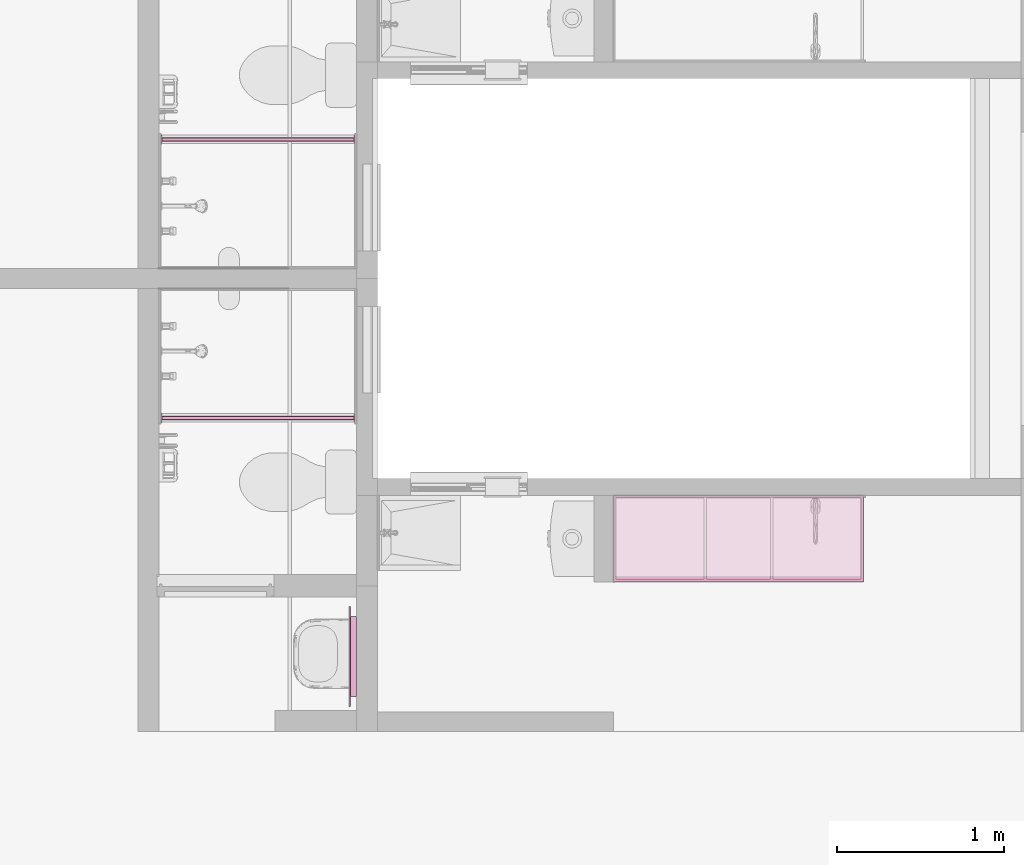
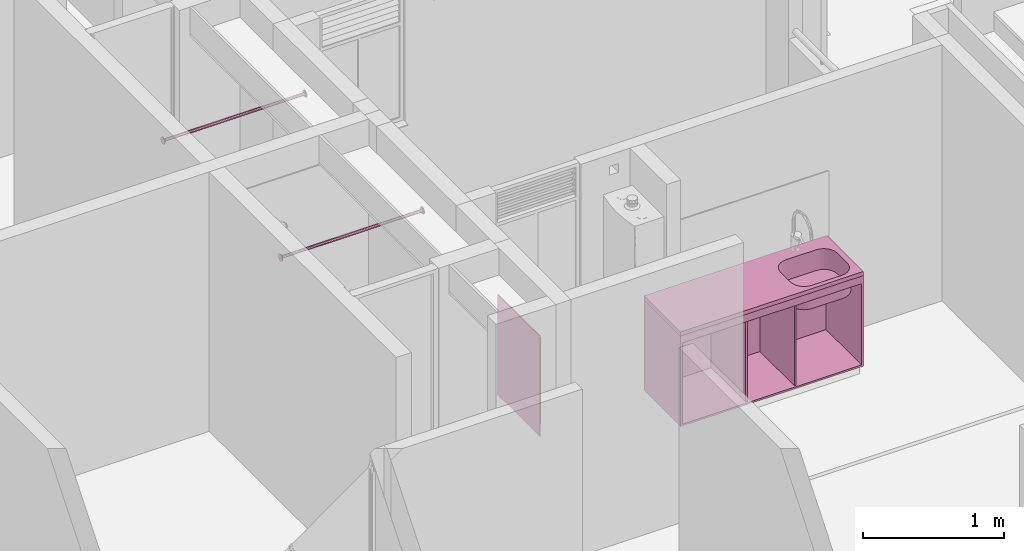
# One storey, part 44 of 51: 5 furniture elements.
"""IFC4 building model written with IfcOpenShell, lengths in metres."""

import ifcopenshell
import ifcopenshell.guid

model = None  # the IFC model being written
_history = None  # IfcOwnerHistory: only IFC2X3 demands one
_inside = {}  # id of a spatial element -> (the spatial element, [elements in it])
_under = {}  # id of a project, library or spatial element -> (it, [spatial elements below it])
_declared = {}  # id of a project -> (the project, [libraries it declares])
_typed = {}  # id of a type object -> (the type object, [elements of that type])
_made_of = {}  # id of a material, layer set ... -> (it, [elements and type objects made of it])


def new_model(schema):
    """Start an empty IFC model of exactly this schema.

    Asked for "IFC4X3", IfcOpenShell would pick the latest addendum, in which some entities
    have other attributes; the version numbers below select the first issue.
    IFC2X3 requires an IfcOwnerHistory on every rooted entity: one is made here for all.
    """
    global model, _history
    if schema == "IFC4X3":
        model = ifcopenshell.file(schema_version=(4, 3, 0, 0))
    else:
        model = ifcopenshell.file(schema=schema)
    _inside.clear()
    _under.clear()
    _declared.clear()
    _typed.clear()
    _made_of.clear()
    _history = None
    if model.schema == "IFC2X3":
        org = make("IfcOrganization", Name="unknown")
        user = make(
            "IfcPersonAndOrganization",
            ThePerson=make("IfcPerson", FamilyName="unknown"),
            TheOrganization=org,
        )
        app = make(
            "IfcApplication",
            ApplicationDeveloper=org,
            Version="unknown",
            ApplicationFullName="unknown",
            ApplicationIdentifier="unknown",
        )
        _history = make(
            "IfcOwnerHistory",
            OwningUser=user,
            OwningApplication=app,
            ChangeAction="ADDED",
            CreationDate=0,
        )
    return model


def make(cls, **values):
    """One entity of the class cls with the attributes given. An attribute that is None is left unset."""
    return model.create_entity(
        cls, **{name: value for name, value in values.items() if value is not None}
    )


def entity(cls, *values):
    """Any entity or typed value of the class cls, its attributes in the order of the schema. None: left unset."""
    e = model.create_entity(cls)
    for i, value in enumerate(values):
        if value is not None:
            e[i] = value
    return e


def rooted(cls, **values):
    """An entity with a GlobalId (a new one), such as an element, a storey or a relation."""
    return make(cls, GlobalId=ifcopenshell.guid.new(), OwnerHistory=_history, **values)


def si_unit(unit_type, name, prefix=None):
    """IfcSIUnit, for example si_unit("LENGTHUNIT", "METRE", prefix="MILLI")."""
    return make("IfcSIUnit", UnitType=unit_type, Prefix=prefix, Name=name)


def converted_unit(unit_type, name, factor, base, dimensions=None, offset=None):
    """IfcConversionBasedUnit, such as the inch: factor (a typed value) times the base unit."""
    return make(
        "IfcConversionBasedUnit"
        if offset is None
        else "IfcConversionBasedUnitWithOffset",
        ConversionOffset=offset,
        Dimensions=None
        if dimensions is None
        else entity("IfcDimensionalExponents", *dimensions),
        UnitType=unit_type,
        Name=name,
        ConversionFactor=make(
            "IfcMeasureWithUnit", ValueComponent=factor, UnitComponent=base
        ),
    )


def derived_unit(unit_type, elements):
    """IfcDerivedUnit: a product of units, each with its exponent."""
    return make(
        "IfcDerivedUnit",
        Elements=[
            make("IfcDerivedUnitElement", Unit=unit, Exponent=power)
            for unit, power in elements
        ],
        UnitType=unit_type,
    )


def assignment(units):
    """IfcUnitAssignment: the units of a project."""
    return None if units is None else make("IfcUnitAssignment", Units=units)


def point(xyz):
    """IfcCartesianPoint."""
    return None if xyz is None else make("IfcCartesianPoint", Coordinates=xyz)


def direction(xyz):
    """IfcDirection."""
    return None if xyz is None else make("IfcDirection", DirectionRatios=xyz)


def frame(location, z_axis=None, x_axis=None):
    """IfcAxis2Placement3D, a coordinate frame: its origin and axes. An axis left out is left unset."""
    return make(
        "IfcAxis2Placement3D",
        Location=point(location),
        Axis=direction(z_axis),
        RefDirection=direction(x_axis),
    )


def origin():
    """The frame at (0, 0, 0) with its axes left unset."""
    return frame((0.0, 0.0, 0.0))


def place(relative_to, where):
    """IfcLocalPlacement: puts the frame where relative to a parent placement (None: the world)."""
    return make(
        "IfcLocalPlacement", PlacementRelTo=relative_to, RelativePlacement=where
    )


def context(
    kind, dimensions, precision=None, world=None, true_north=None, identifier=None
):
    """IfcGeometricRepresentationContext, for example the 3D "Model" context."""
    return make(
        "IfcGeometricRepresentationContext",
        ContextIdentifier=identifier,
        ContextType=kind,
        CoordinateSpaceDimension=dimensions,
        Precision=precision,
        WorldCoordinateSystem=world,
        TrueNorth=true_north,
    )


def subcontext(parent, identifier, kind, view, scale=None):
    """IfcGeometricRepresentationSubContext, for example "Body" below "Model"."""
    return make(
        "IfcGeometricRepresentationSubContext",
        ContextIdentifier=identifier,
        ContextType=kind,
        ParentContext=parent,
        TargetScale=scale,
        TargetView=view,
    )


def project(units=None, contexts=None):
    """IfcProject with its units and contexts."""
    return rooted(
        "IfcProject",
        Name="project",
        RepresentationContexts=contexts,
        UnitsInContext=assignment(units),
    )


def spatial(cls, under=None, at=None, **own):
    """A site, building, storey or space (cls), placed at a placement, below another one or the project."""
    s = rooted(cls, ObjectPlacement=at, **own)
    if under is not None:
        _under.setdefault(under.id(), (under, []))[1].append(s)
    return s


def point_list(points):
    """IfcCartesianPointList2D or 3D."""
    cls = (
        "IfcCartesianPointList2D" if len(points[0]) == 2 else "IfcCartesianPointList3D"
    )
    return make(cls, CoordList=points)


def arc(*indices):
    """IfcArcIndex: an arc through three numbered points of an indexed curve."""
    return model.create_entity("IfcArcIndex", indices)


def indexed_curve(points, segments=None, self_intersect=None):
    """IfcIndexedPolyCurve: lines and arcs through numbered points (the first is 1)."""
    return make(
        "IfcIndexedPolyCurve",
        Points=point_list(points),
        Segments=segments,
        SelfIntersect=self_intersect,
    )


def outline(outer, holes=None, kind="AREA"):
    """IfcArbitraryClosedProfileDef: a profile drawn as a closed curve; with holes, ...WithVoids."""
    if holes is None:
        return make("IfcArbitraryClosedProfileDef", ProfileType=kind, OuterCurve=outer)
    return make(
        "IfcArbitraryProfileDefWithVoids",
        ProfileType=kind,
        OuterCurve=outer,
        InnerCurves=holes,
    )


def extrude(swept, where, along, depth):
    """IfcExtrudedAreaSolid: the profile swept, set in the frame where, extruded along a direction by depth."""
    return make(
        "IfcExtrudedAreaSolid",
        SweptArea=swept,
        Position=where,
        ExtrudedDirection=direction(along),
        Depth=depth,
    )


def polygons(points, faces, closed=None, point_numbers=None):
    """IfcPolygonalFaceSet: a face is its outer loop, then its inner loops; points numbered from 1."""
    made = []
    for loops in faces:
        if len(loops) == 1:
            made.append(make("IfcIndexedPolygonalFace", CoordIndex=loops[0]))
        else:
            made.append(
                make(
                    "IfcIndexedPolygonalFaceWithVoids",
                    CoordIndex=loops[0],
                    InnerCoordIndices=loops[1:],
                )
            )
    return make(
        "IfcPolygonalFaceSet",
        Coordinates=point_list(points),
        Closed=closed,
        Faces=made,
        PnIndex=point_numbers,
    )


def shape(context_of_items, identifier, shape_type, items):
    """IfcShapeRepresentation: the items that make up one representation, for example the "Body"."""
    return make(
        "IfcShapeRepresentation",
        ContextOfItems=context_of_items,
        RepresentationIdentifier=identifier,
        RepresentationType=shape_type,
        Items=items,
    )


def source(mapping_origin, context_of_items, identifier, shape_type, items):
    """IfcRepresentationMap: a shape defined once, which mapped items show again and again."""
    return make(
        "IfcRepresentationMap",
        MappingOrigin=mapping_origin,
        MappedRepresentation=shape(context_of_items, identifier, shape_type, items),
    )


def transform(
    local_origin,
    x_axis=None,
    y_axis=None,
    z_axis=None,
    scale=None,
    scale2=None,
    scale3=None,
    uniform=True,
):
    """IfcCartesianTransformationOperator3D, or its non-uniform kind. x_axis, y_axis, z_axis: its Axis1, 2, 3."""
    if uniform:
        return make(
            "IfcCartesianTransformationOperator3D",
            Axis1=direction(x_axis),
            Axis2=direction(y_axis),
            LocalOrigin=point(local_origin),
            Scale=scale,
            Axis3=direction(z_axis),
        )
    return make(
        "IfcCartesianTransformationOperator3DnonUniform",
        Axis1=direction(x_axis),
        Axis2=direction(y_axis),
        LocalOrigin=point(local_origin),
        Scale=scale,
        Axis3=direction(z_axis),
        Scale2=scale2,
        Scale3=scale3,
    )


def mapped(mapping_source, mapping_target):
    """IfcMappedItem: shows the shape of a source again, moved by a transform."""
    return make(
        "IfcMappedItem", MappingSource=mapping_source, MappingTarget=mapping_target
    )


def material(Name=None, Category=None):
    """IfcMaterial."""
    return make("IfcMaterial", Name=Name, Category=Category)


def constituent(of_material, Name=None, Category=None, fraction=None):
    """IfcMaterialConstituent: one of the materials an element consists of."""
    return make(
        "IfcMaterialConstituent",
        Name=Name,
        Material=of_material,
        Fraction=fraction,
        Category=Category,
    )


def constituent_set(constituents=None, Name=None):
    """IfcMaterialConstituentSet."""
    return make(
        "IfcMaterialConstituentSet", Name=Name, MaterialConstituents=constituents
    )


def made_of(thing, what):
    """Note that an element or type object is made of a material, layer set ...; save() writes the relation."""
    if what is not None:
        _made_of.setdefault(what.id(), (what, []))[1].append(thing)
    return thing


def type_object(cls, material=None, **own):
    """A type object (cls), such as IfcWallType, which elements share."""
    return made_of(rooted(cls, **own), material)


def type_shapes(of_type, sources):
    """Give a type object the sources (RepresentationMaps) that its elements show as mapped items."""
    of_type.RepresentationMaps = sources


def element(
    cls,
    number,
    at=None,
    inside=None,
    cuts=None,
    type_object=None,
    material=None,
    context=None,
    identifier="Body",
    shape_type=None,
    held_by="IfcProductDefinitionShape",
    body=None,
    shapes=None,
    **own,
):
    """One element of the class cls, such as IfcWall. Its Tag is "e" and its number.

    at: its placement. inside: the storey or other place that contains it. cuts: it is an
    opening in that element (IfcRelVoidsElement). A single representation is given by context,
    identifier, shape_type and body (its items); several are given by shapes. held_by: the class
    of the entity that holds the representations. save() writes the other relations.
    """
    e = rooted(cls, Tag="e%d" % number, ObjectPlacement=at, **own)
    if body is not None:
        shapes = [shape(context, identifier, shape_type, body)]
    if shapes is not None:
        e.Representation = make(held_by, Representations=shapes)
    if inside is not None:
        _inside.setdefault(inside.id(), (inside, []))[1].append(e)
    if cuts is not None:
        rooted(
            "IfcRelVoidsElement", RelatingBuildingElement=cuts, RelatedOpeningElement=e
        )
    if type_object is not None:
        _typed.setdefault(type_object.id(), (type_object, []))[1].append(e)
    return made_of(e, material)


def aggregate(whole, parts):
    """IfcRelAggregates: a whole, such as a stair, and the parts it consists of."""
    return rooted("IfcRelAggregates", RelatingObject=whole, RelatedObjects=parts)


def save(model, path):
    """Write the relations noted so far, then the file.

    IfcRelAggregates (storeys below a building ...), IfcRelContainedInSpatialStructure (elements
    in a storey), IfcRelDefinesByType, IfcRelAssociatesMaterial and IfcRelDeclares: one each for
    every whole, place, type object, material and project.
    """
    for whole, parts in _under.values():
        aggregate(whole, parts)
    for where, things in _inside.values():
        rooted(
            "IfcRelContainedInSpatialStructure",
            RelatedElements=things,
            RelatingStructure=where,
        )
    for kind, things in _typed.values():
        rooted("IfcRelDefinesByType", RelatedObjects=things, RelatingType=kind)
    for what, things in _made_of.values():
        rooted("IfcRelAssociatesMaterial", RelatedObjects=things, RelatingMaterial=what)
    for by, libraries in _declared.values():
        rooted("IfcRelDeclares", RelatingContext=by, RelatedDefinitions=libraries)
    model.write(path)


model = new_model("IFC4")

# Units and contexts
model_context = context("Model", 3, precision=1e-05, world=origin(), true_north=direction((6.123031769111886e-17, 1.0)))
body_context = subcontext(model_context, "Body", "Model", "MODEL_VIEW")
ifc_project = project(units=[si_unit("LENGTHUNIT", "METRE"), si_unit("AREAUNIT", "SQUARE_METRE"), si_unit("VOLUMEUNIT", "CUBIC_METRE"), converted_unit("PLANEANGLEUNIT", "DEGREE", entity("IfcRatioMeasure", 0.017453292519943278), si_unit("PLANEANGLEUNIT", "RADIAN"), dimensions=[0, 0, 0, 0, 0, 0, 0]), si_unit("MASSUNIT", "GRAM", prefix="KILO"), derived_unit("MASSDENSITYUNIT", [(si_unit("MASSUNIT", "GRAM", prefix="KILO"), 1), (si_unit("LENGTHUNIT", "METRE"), -3)]), derived_unit("IONCONCENTRATIONUNIT", [(si_unit("MASSUNIT", "GRAM", prefix="KILO"), 1), (si_unit("LENGTHUNIT", "METRE"), -3)]), derived_unit("MOMENTOFINERTIAUNIT", [(si_unit("LENGTHUNIT", "METRE"), 4)]), si_unit("TIMEUNIT", "SECOND"), si_unit("FREQUENCYUNIT", "HERTZ"), si_unit("THERMODYNAMICTEMPERATUREUNIT", "DEGREE_CELSIUS"), derived_unit("THERMALTRANSMITTANCEUNIT", [(si_unit("MASSUNIT", "GRAM", prefix="KILO"), 1), (si_unit("THERMODYNAMICTEMPERATUREUNIT", "KELVIN"), -1), (si_unit("TIMEUNIT", "SECOND"), -3)]), derived_unit("THERMALCONDUCTANCEUNIT", [(si_unit("MASSUNIT", "GRAM", prefix="KILO"), 1), (si_unit("THERMODYNAMICTEMPERATUREUNIT", "KELVIN"), -1), (si_unit("TIMEUNIT", "SECOND"), -3), (si_unit("LENGTHUNIT", "METRE"), 1)]), derived_unit("VOLUMETRICFLOWRATEUNIT", [(si_unit("LENGTHUNIT", "METRE"), 3), (si_unit("TIMEUNIT", "SECOND"), -1)]), derived_unit("MASSFLOWRATEUNIT", [(si_unit("MASSUNIT", "GRAM", prefix="KILO"), 1), (si_unit("TIMEUNIT", "SECOND"), -1)]), derived_unit("ROTATIONALFREQUENCYUNIT", [(si_unit("TIMEUNIT", "SECOND"), -1)]), si_unit("ELECTRICCURRENTUNIT", "AMPERE"), si_unit("ELECTRICVOLTAGEUNIT", "VOLT"), si_unit("POWERUNIT", "WATT"), si_unit("FORCEUNIT", "NEWTON", prefix="KILO"), si_unit("ILLUMINANCEUNIT", "LUX"), si_unit("LUMINOUSFLUXUNIT", "LUMEN"), si_unit("LUMINOUSINTENSITYUNIT", "CANDELA"), derived_unit("USERDEFINED", [(si_unit("MASSUNIT", "GRAM", prefix="KILO"), -1), (si_unit("LENGTHUNIT", "METRE"), -2), (si_unit("TIMEUNIT", "SECOND"), 3), (si_unit("LUMINOUSFLUXUNIT", "LUMEN"), 1)]), derived_unit("USERDEFINED", [(si_unit("MASSUNIT", "GRAM", prefix="KILO"), 1), (si_unit("TIMEUNIT", "SECOND"), -3), (si_unit("LENGTHUNIT", "METRE"), 3), (si_unit("ELECTRICCURRENTUNIT", "AMPERE"), -2)]), derived_unit("SOUNDPOWERUNIT", [(si_unit("MASSUNIT", "GRAM", prefix="KILO"), 1), (si_unit("TIMEUNIT", "SECOND"), -3), (si_unit("LENGTHUNIT", "METRE"), 2)]), derived_unit("SOUNDPRESSUREUNIT", [(si_unit("MASSUNIT", "GRAM", prefix="KILO"), 1), (si_unit("LENGTHUNIT", "METRE"), -1), (si_unit("TIMEUNIT", "SECOND"), -2)]), derived_unit("LINEARVELOCITYUNIT", [(si_unit("LENGTHUNIT", "METRE"), 1), (si_unit("TIMEUNIT", "SECOND"), -1)]), si_unit("PRESSUREUNIT", "PASCAL"), derived_unit("USERDEFINED", [(si_unit("MASSUNIT", "GRAM", prefix="KILO"), 1), (si_unit("LENGTHUNIT", "METRE"), -2), (si_unit("TIMEUNIT", "SECOND"), -2)]), derived_unit("LINEARFORCEUNIT", [(si_unit("MASSUNIT", "GRAM", prefix="KILO"), 1), (si_unit("TIMEUNIT", "SECOND"), -2)]), derived_unit("PLANARFORCEUNIT", [(si_unit("MASSUNIT", "GRAM", prefix="KILO"), 1), (si_unit("LENGTHUNIT", "METRE"), -1), (si_unit("TIMEUNIT", "SECOND"), -2)]), derived_unit("SPECIFICHEATCAPACITYUNIT", [(si_unit("THERMODYNAMICTEMPERATUREUNIT", "KELVIN"), -1), (si_unit("LENGTHUNIT", "METRE"), 2), (si_unit("TIMEUNIT", "SECOND"), -2)]), derived_unit("HEATINGVALUEUNIT", [(si_unit("LENGTHUNIT", "METRE"), 2), (si_unit("TIMEUNIT", "SECOND"), -2)]), derived_unit("VAPORPERMEABILITYUNIT", [(si_unit("LENGTHUNIT", "METRE"), -1), (si_unit("TIMEUNIT", "SECOND"), 1)]), derived_unit("DYNAMICVISCOSITYUNIT", [(si_unit("MASSUNIT", "GRAM", prefix="KILO"), 1), (si_unit("TIMEUNIT", "SECOND"), -1), (si_unit("LENGTHUNIT", "METRE"), -1)]), derived_unit("THERMALEXPANSIONCOEFFICIENTUNIT", [(si_unit("THERMODYNAMICTEMPERATUREUNIT", "KELVIN"), -1)]), derived_unit("MODULUSOFELASTICITYUNIT", [(si_unit("MASSUNIT", "GRAM", prefix="KILO"), 1), (si_unit("LENGTHUNIT", "METRE"), -1), (si_unit("TIMEUNIT", "SECOND"), -2)]), derived_unit("ISOTHERMALMOISTURECAPACITYUNIT", [(si_unit("LENGTHUNIT", "METRE"), 3), (si_unit("MASSUNIT", "GRAM", prefix="KILO"), -1)]), derived_unit("MOISTUREDIFFUSIVITYUNIT", [(si_unit("TIMEUNIT", "SECOND"), -1), (si_unit("LENGTHUNIT", "METRE"), 2)])], contexts=[model_context])

# Site, building, storey
site_placement = place(None, origin())
site = spatial("IfcSite", under=ifc_project, at=site_placement, Name="Default", CompositionType="ELEMENT")
building_placement = place(site_placement, origin())
building = spatial("IfcBuilding", under=site, at=building_placement, CompositionType="ELEMENT")
storey_placement = place(building_placement, frame((0.0, 0.0, 2.350000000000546)))
storey = spatial("IfcBuildingStorey", under=building, at=storey_placement, Name="Nivel 2", CompositionType="ELEMENT", Elevation=2.350000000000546)

# Furniture
ifc_material_1 = material(Name="Aluminio", Category="Materials")
ifc_constituent_1 = constituent(ifc_material_1, Name="Aluminio", Category="Materials")
ifc_material_2 = material(Name="ESPEJO", Category="Materials")
ifc_constituent_2 = constituent(ifc_material_2, Name="ESPEJO", Category="Materials")
ifc_constituent_set_1 = constituent_set(constituents=[ifc_constituent_1, ifc_constituent_2])
ifc_constituent_3 = constituent(ifc_material_1, Name="Aluminio", Category="Materials")
ifc_constituent_4 = constituent(ifc_material_2, Name="ESPEJO", Category="Materials")
ifc_constituent_set_2 = constituent_set(constituents=[ifc_constituent_3, ifc_constituent_4])
furniture_type_1 = type_object("IfcFurnitureType", Name="E2050 - Espejo:E2050 - 0.60m x 0.87m - Espejo", AssemblyPlace="NOTDEFINED", PredefinedType="NOTDEFINED", material=ifc_constituent_set_2)
shared_shape_1 = source(origin(), body_context, "Body", "SweptSolid", [
    extrude(outline(indexed_curve([(-0.23999999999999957, -0.3749999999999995), (0.2399999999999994, -0.3749999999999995), (0.2399999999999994, 0.37499999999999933), (-0.23999999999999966, 0.3749999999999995), (-0.23999999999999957, -0.3749999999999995)], self_intersect=False), holes=[indexed_curve([(0.2149999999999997, -0.34999999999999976), (-0.21499999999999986, -0.34999999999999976), (-0.21499999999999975, 0.34999999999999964), (0.2149999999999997, 0.34999999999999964), (0.2149999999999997, -0.34999999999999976)], self_intersect=False)]), frame((0.12499999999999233, 0.062499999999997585, 1.485), z_axis=(0.0, 1.0, 0.0), x_axis=(1.0, 0.0, 0.0)), (0.0, 0.0, 1.0), 0.037500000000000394),
    extrude(outline(indexed_curve([(-0.00350000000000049, -0.30000000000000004), (0.00350000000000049, -0.30000000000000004), (0.00350000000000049, 0.30000000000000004), (-0.00350000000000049, 0.30000000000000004), (-0.00350000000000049, -0.30000000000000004)], self_intersect=False)), frame((0.1249999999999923, 0.10350000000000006, 1.05), z_axis=(0.0, 0.0, 1.0), x_axis=(0.0, 1.0, 0.0)), (0.0, 0.0, 1.0), 0.87),
])
type_shapes(furniture_type_1, [shared_shape_1])
furniture_1_placement = place(storey_placement, frame((4.024999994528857, -8.815000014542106, -0.020000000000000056), z_axis=(0.0, 0.0, 1.0), x_axis=(0.0, 1.0, 0.0)))
element("IfcFurniture", 1, at=furniture_1_placement, inside=storey, type_object=furniture_type_1, material=ifc_constituent_set_1, Name="E2050 - Espejo:E2050 - 0.60m x 0.87m - Espejo", ObjectType="E2050 - Espejo:E2050 - 0.60m x 0.87m - Espejo", PredefinedType="NOTDEFINED", context=body_context, shape_type="MappedRepresentation", body=[
    mapped(shared_shape_1, transform((0.0, 0.0, 0.0), scale=1.0)),
])

# Space
space_1_placement = place(storey_placement, origin())
space_1 = spatial("IfcSpace", under=storey, at=space_1_placement, Name="411", CompositionType="ELEMENT", PredefinedType="SPACE")

# Furniture
ifc_material_3 = material(Name="<Unnamed>")
furniture_type_2 = type_object("IfcFurnitureType", Name="Barra baño:E2050- Barra Baño- Acero inoxidable", AssemblyPlace="NOTDEFINED", PredefinedType="NOTDEFINED", material=ifc_material_3)
shared_shape_2 = source(origin(), body_context, "Body", "SweptSolid", [
    extrude(outline(indexed_curve([(-0.025, 0.0), (-9.341026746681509e-17, -0.025), (0.025, 2.707167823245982e-16), (-1.316959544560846e-16, 0.025)], segments=[arc(1, 2, 3), arc(3, 4, 1)], self_intersect=False)), frame((-1.1599989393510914, 0.0, 1.8000000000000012), z_axis=(1.0, 0.0, 0.0), x_axis=(0.0, 1.0, 0.0)), (0.0, 0.0, 1.0), 0.005000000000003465),
    extrude(outline(indexed_curve([(-0.03, 0.0), (-1.1209232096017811e-16, -0.029999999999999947), (0.03, 2.707167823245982e-16), (-1.3138979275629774e-16, 0.029999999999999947)], segments=[arc(1, 2, 3), arc(3, 4, 1)], self_intersect=False)), frame((-1.164998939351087, 0.0, 1.8000000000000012), z_axis=(1.0, 0.0, 0.0), x_axis=(0.0, 1.0, 0.0)), (0.0, 0.0, 1.0), 0.0049999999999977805),
    extrude(outline(indexed_curve([(-0.0125, 0.0), (-4.6705133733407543e-17, -0.012499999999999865), (0.0125, 0.0), (7.654042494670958e-19, 0.012499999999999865)], segments=[arc(1, 2, 3), arc(3, 4, 1)], self_intersect=False)), frame((-1.1549989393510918, 0.0, 1.7999999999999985), z_axis=(1.0, 0.0, 0.0), x_axis=(0.0, 1.0, 0.0)), (0.0, 0.0, 1.0), 1.149998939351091),
    extrude(outline(indexed_curve([(-0.025, 0.0), (-2.2663703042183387e-16, -0.025), (0.025, 0.0), (1.5308084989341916e-18, 0.025)], segments=[arc(1, 2, 3), arc(3, 4, 1)], self_intersect=False)), frame((-0.005000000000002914, 0.0, 1.7999999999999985), z_axis=(1.0, 0.0, 0.0), x_axis=(0.0, 1.0, 0.0)), (0.0, 0.0, 1.0), 0.005000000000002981),
    extrude(outline(indexed_curve([(-0.03, 0.0), (-2.1867373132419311e-16, -0.029999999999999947), (0.03, 0.0), (1.8369701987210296e-18, 0.029999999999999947)], segments=[arc(1, 2, 3), arc(3, 4, 1)], self_intersect=False)), frame((0.0, 0.0, 1.7999999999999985), z_axis=(1.0, 0.0, 0.0), x_axis=(0.0, 1.0, 0.0)), (0.0, 0.0, 1.0), 0.00499999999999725),
])
type_shapes(furniture_type_2, [shared_shape_2])
furniture_2_placement = place(space_1_placement, frame((3.952499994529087, -7.260000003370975, 0.12999999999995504)))
element("IfcFurniture", 2, at=furniture_2_placement, inside=space_1, type_object=furniture_type_2, material=ifc_material_3, Name="Barra baño:E2050- Barra Baño- Acero inoxidable", ObjectType="Barra baño:E2050- Barra Baño- Acero inoxidable", PredefinedType="NOTDEFINED", context=body_context, shape_type="MappedRepresentation", body=[
    mapped(shared_shape_2, transform((0.0, 0.0, 0.0), scale=1.0)),
])

# Space
space_2_placement = place(storey_placement, origin())
space_2 = spatial("IfcSpace", under=storey, at=space_2_placement, Name="404", CompositionType="ELEMENT", PredefinedType="SPACE")

# Furniture
furniture_type_3 = type_object("IfcFurnitureType", Name="Barra baño:E2050- Barra Baño- Acero inoxidable", AssemblyPlace="NOTDEFINED", PredefinedType="NOTDEFINED", material=ifc_material_3)
shared_shape_3 = source(origin(), body_context, "Body", "SweptSolid", [
    extrude(outline(indexed_curve([(-0.025, 2.707167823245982e-16), (-2.9325041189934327e-16, -0.025), (0.025, 0.0), (7.924642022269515e-17, 0.025)], segments=[arc(1, 2, 3), arc(3, 4, 1)], self_intersect=False)), frame((-1.1599989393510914, 0.0, 1.8000000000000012), z_axis=(1.0, 0.0, 0.0), x_axis=(0.0, -1.0, 0.0)), (0.0, 0.0, 1.0), 0.005000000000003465),
    extrude(outline(indexed_curve([(-0.03, 2.707167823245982e-16), (-3.2525514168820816e-16, -0.029999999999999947), (0.03, 0.0), (9.509570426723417e-17, 0.029999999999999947)], segments=[arc(1, 2, 3), arc(3, 4, 1)], self_intersect=False)), frame((-1.164998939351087, 0.0, 1.8000000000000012), z_axis=(1.0, 0.0, 0.0), x_axis=(0.0, -1.0, 0.0)), (0.0, 0.0, 1.0), 0.0049999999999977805),
    extrude(outline(indexed_curve([(-0.0125, 0.0), (-8.001182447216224e-17, -0.012499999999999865), (0.0125, 0.0), (3.9623210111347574e-17, 0.012499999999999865)], segments=[arc(1, 2, 3), arc(3, 4, 1)], self_intersect=False)), frame((-1.1549989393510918, 0.0, 1.7999999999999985), z_axis=(1.0, 0.0, 0.0), x_axis=(0.0, -1.0, 0.0)), (0.0, 0.0, 1.0), 1.149998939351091),
    extrude(outline(indexed_curve([(-0.025, 0.0), (-1.600236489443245e-16, -0.025000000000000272), (0.025, 0.0), (-5.398034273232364e-17, 0.02499999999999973)], segments=[arc(1, 2, 3), arc(3, 4, 1)], self_intersect=False)), frame((-0.005000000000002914, 0.0, 1.7999999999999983), z_axis=(1.0, 0.0, 0.0), x_axis=(0.0, -1.0, 0.0)), (0.0, 0.0, 1.0), 0.005000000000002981),
    extrude(outline(indexed_curve([(-0.03, 0.0), (-1.9202837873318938e-16, -0.030000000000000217), (0.03, 0.0), (-3.813105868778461e-17, 0.029999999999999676)], segments=[arc(1, 2, 3), arc(3, 4, 1)], self_intersect=False)), frame((0.0, 0.0, 1.7999999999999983), z_axis=(1.0, 0.0, 0.0), x_axis=(0.0, -1.0, 0.0)), (0.0, 0.0, 1.0), 0.00499999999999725),
])
type_shapes(furniture_type_3, [shared_shape_3])
furniture_3_placement = place(space_2_placement, frame((3.952499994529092, -5.590000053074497, 0.12999999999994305)))
element("IfcFurniture", 3, at=furniture_3_placement, inside=space_2, type_object=furniture_type_3, material=ifc_material_3, Name="Barra baño:E2050- Barra Baño- Acero inoxidable", ObjectType="Barra baño:E2050- Barra Baño- Acero inoxidable", PredefinedType="NOTDEFINED", context=body_context, shape_type="MappedRepresentation", body=[
    mapped(shared_shape_3, transform((0.0, 0.0, 0.0), scale=1.0)),
])

# Space
space_3_placement = place(storey_placement, origin())
space_3 = spatial("IfcSpace", under=storey, at=space_3_placement, Name="414", CompositionType="ELEMENT", PredefinedType="SPACE")

# Furniture
ifc_material_4 = material(Name="mueble cocina", Category="Materials")
furniture_type_4 = type_object("IfcFurnitureType", Name="E2010 - Mueble bajo de cocina - Madera:E2010 - 1.50 x 0.52 - Mueble bajo de cocina - Madera", AssemblyPlace="NOTDEFINED", PredefinedType="NOTDEFINED", material=ifc_material_4)
shared_shape_4 = source(origin(), body_context, "Body", "SweptSolid", [
    extrude(outline(indexed_curve([(-0.007500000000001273, -0.7349999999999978), (0.007499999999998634, -0.7349999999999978), (0.007500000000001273, 0.7349999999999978), (-0.007499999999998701, 0.7349999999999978), (-0.007500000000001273, -0.7349999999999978)], self_intersect=False)), frame((0.04470032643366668, -0.5125000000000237, 0.8149999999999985), z_axis=(0.0, 0.0, 1.0), x_axis=(0.0, -1.0, 0.0)), (0.0, 0.0, 1.0), 0.06500000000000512),
    extrude(outline(indexed_curve([(-0.2600000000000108, -0.7499999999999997), (0.260000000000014, -0.7499999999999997), (0.2600000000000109, 0.7500000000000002), (-0.2600000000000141, 0.7499999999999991), (-0.2600000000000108, -0.7499999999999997)], self_intersect=False)), frame((0.04470032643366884, -0.2600000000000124, 0.09500000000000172), z_axis=(0.0, 0.0, 1.0), x_axis=(0.0, -1.0, 0.0)), (0.0, 0.0, 1.0), 0.0149999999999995),
    extrude(outline(indexed_curve([(-0.007500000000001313, -0.7500000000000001), (0.007499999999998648, -0.7500000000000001), (0.0075000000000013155, 0.7500000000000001), (-0.007499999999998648, 0.7500000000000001), (-0.007500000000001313, -0.7500000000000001)], self_intersect=False)), frame((0.04470032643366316, -0.00749999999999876, 0.11000000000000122), z_axis=(0.0, 0.0, 1.0), x_axis=(0.0, -1.0, 0.0)), (0.0, 0.0, 1.0), 0.7700000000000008),
    extrude(outline(indexed_curve([(-0.007500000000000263, -0.24500000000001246), (0.007499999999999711, -0.24500000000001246), (0.007500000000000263, 0.24500000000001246), (-0.007499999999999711, 0.24500000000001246), (-0.007500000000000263, -0.24500000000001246)], self_intersect=False)), frame((-0.1552996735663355, -0.2600000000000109, 0.11000000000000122), z_axis=(0.0, 0.0, 1.0), x_axis=(-1.0, 0.0, 0.0)), (0.0, 0.0, 1.0), 0.7700000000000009),
    extrude(outline(indexed_curve([(-0.007499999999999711, -0.24500000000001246), (0.007500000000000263, -0.24500000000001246), (0.007499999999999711, 0.24500000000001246), (-0.007500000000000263, 0.24500000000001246), (-0.007499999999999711, -0.24500000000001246)], self_intersect=False)), frame((0.24470032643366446, -0.26000000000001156, 0.11000000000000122), z_axis=(0.0, 0.0, 1.0), x_axis=(-1.0, 0.0, 0.0)), (0.0, 0.0, 1.0), 0.7700000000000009),
    extrude(outline(indexed_curve([(-0.00750000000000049, -0.2525000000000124), (0.0074999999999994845, -0.25250000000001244), (0.007500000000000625, 0.2525000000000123), (-0.007499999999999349, 0.2525000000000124), (-0.00750000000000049, -0.2525000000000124)], self_intersect=False)), frame((0.7872003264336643, -0.2675000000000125, 0.11000000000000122), z_axis=(0.0, 0.0, 1.0), x_axis=(-1.0, 0.0, 0.0)), (0.0, 0.0, 1.0), 0.7700000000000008),
    extrude(outline(indexed_curve([(-0.007499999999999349, -0.2525000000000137), (0.007500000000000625, -0.2525000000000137), (0.0074999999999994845, 0.25250000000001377), (-0.00750000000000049, 0.2525000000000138), (-0.007499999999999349, -0.2525000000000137)], self_intersect=False)), frame((-0.697799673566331, -0.2675000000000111, 0.11000000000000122), z_axis=(0.0, 0.0, 1.0), x_axis=(-1.0, 0.0, 0.0)), (0.0, 0.0, 1.0), 0.7700000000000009),
])
type_shapes(furniture_type_4, [shared_shape_4])
furniture_4_placement = place(space_3_placement, frame((6.20779966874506, -7.7250000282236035, 0.0150000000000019)))
element("IfcFurniture", 4, at=furniture_4_placement, inside=space_3, type_object=furniture_type_4, material=ifc_material_4, Name="E2010 - Mueble bajo de cocina - Madera:E2010 - 1.50 x 0.52 - Mueble bajo de cocina - Madera", ObjectType="E2010 - Mueble bajo de cocina - Madera:E2010 - 1.50 x 0.52 - Mueble bajo de cocina - Madera", PredefinedType="NOTDEFINED", context=body_context, shape_type="MappedRepresentation", body=[
    mapped(shared_shape_4, transform((0.0, 0.0, 0.0), scale=1.0)),
])
ifc_material_5 = material(Name="Mesón cocina", Category="Materials")
furniture_type_5 = type_object("IfcFurnitureType", Name="E1060 - Meson Socoda Radiante - 1.50 X 0.52 - Acero inoxidable:E1060 - 1.50 x 0.52 - Meson de cocina, lavadero y estufa - Acero inoxidable", AssemblyPlace="NOTDEFINED", PredefinedType="NOTDEFINED", material=ifc_material_5)
shared_shape_5 = source(origin(), body_context, "Body", "Tessellation", [
    polygons([(0.7500000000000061, 0.2600000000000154, 0.03499999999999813), (-0.7499999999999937, 0.2600000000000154, 0.03499999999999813), (-0.7499999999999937, -0.2600000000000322, 0.03499999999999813), (0.7500000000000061, -0.2600000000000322, 0.03499999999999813), (0.23610399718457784, 0.03077661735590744, 0.03499999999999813), (0.23985215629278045, 0.05924671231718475, 0.03499999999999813), (0.2508412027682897, 0.08577661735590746, 0.03499999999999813), (0.2683222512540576, 0.10855836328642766, 0.03499999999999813), (0.2911039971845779, 0.1260394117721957, 0.03499999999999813), (0.31763390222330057, 0.13702845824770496, 0.03499999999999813), (0.3461039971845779, 0.1407766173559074, 0.03499999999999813), (0.593473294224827, 0.14077661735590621, 0.03499999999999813), (0.6219433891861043, 0.13702845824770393, 0.03499999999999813), (0.6484732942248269, 0.1260394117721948, 0.03499999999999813), (0.6712550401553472, 0.10855836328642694, 0.03499999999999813), (0.6887360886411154, 0.08577661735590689, 0.03499999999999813), (0.6997251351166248, 0.05924671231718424, 0.03499999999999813), (0.7034732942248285, 0.03077661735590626, 0.03499999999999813), (0.703473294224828, -0.11422338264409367, 0.03499999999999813), (0.6997251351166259, -0.14269347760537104, 0.03499999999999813), (0.6887360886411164, -0.1692233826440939, 0.03499999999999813), (0.6712550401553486, -0.1920051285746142, 0.03499999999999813), (0.6484732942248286, -0.20948617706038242, 0.03499999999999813), (0.6219433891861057, -0.22047522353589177, 0.03499999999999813), (0.5934732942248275, -0.22422338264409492, 0.03499999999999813), (0.3461039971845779, -0.22422338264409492, 0.03499999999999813), (0.31763390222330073, -0.22047522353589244, 0.03499999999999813), (0.2911039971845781, -0.20948617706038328, 0.03499999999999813), (0.2683222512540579, -0.1920051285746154, 0.03499999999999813), (0.2508412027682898, -0.1692233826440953, 0.03499999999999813), (0.23985215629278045, -0.14269347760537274, 0.03499999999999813), (0.23610399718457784, -0.11422338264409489, 0.03499999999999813), (0.7500000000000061, 0.2600000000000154, -1.8678232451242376e-15), (0.7500000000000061, -0.2600000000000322, -1.8678232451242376e-15), (-0.7499999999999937, -0.2600000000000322, -1.8678232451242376e-15), (-0.7499999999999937, 0.2600000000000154, -1.8678232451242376e-15), (0.5934732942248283, 0.1507766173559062, -1.8678232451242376e-15), (0.34610399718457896, 0.1507766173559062, -1.8678232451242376e-15), (0.31504571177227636, 0.1466877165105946, -1.8678232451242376e-15), (0.2861039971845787, 0.13469966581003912, -1.8678232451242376e-15), (0.2612511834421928, 0.11562943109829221, -1.8678232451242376e-15), (0.2421809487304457, 0.09077661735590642, -1.8678232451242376e-15), (0.23019289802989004, 0.06183490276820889, -1.8678232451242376e-15), (0.22610399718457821, 0.030776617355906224, -1.8678232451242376e-15), (0.22610399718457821, -0.11422338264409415, -1.8678232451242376e-15), (0.2301928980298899, -0.14528166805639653, -1.8678232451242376e-15), (0.24218094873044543, -0.17422338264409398, -1.8678232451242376e-15), (0.2612511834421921, -0.19907619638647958, -1.8678232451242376e-15), (0.2861039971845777, -0.2181464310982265, -1.8678232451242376e-15), (0.31504571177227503, -0.2301344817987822, -1.8678232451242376e-15), (0.3461039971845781, -0.23422338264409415, -1.8678232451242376e-15), (0.5934732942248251, -0.23422338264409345, -1.8678232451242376e-15), (0.6245315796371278, -0.2301344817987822, -1.8678232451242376e-15), (0.6534732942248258, -0.21814643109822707, -1.8678232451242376e-15), (0.6783261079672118, -0.19907619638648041, -1.8678232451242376e-15), (0.6973963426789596, -0.17422338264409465, -1.8678232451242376e-15), (0.7093843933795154, -0.14528166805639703, -1.8678232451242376e-15), (0.7134732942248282, -0.11422338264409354, -1.8678232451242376e-15), (0.7134732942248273, 0.030776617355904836, -1.8678232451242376e-15), (0.7093843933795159, 0.061834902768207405, -1.8678232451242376e-15), (0.6973963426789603, 0.09077661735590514, -1.8678232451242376e-15), (0.6783261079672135, 0.11562943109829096, -1.8678232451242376e-15), (0.6534732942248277, 0.13469966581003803, -1.8678232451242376e-15), (0.62453157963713, 0.1466877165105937, -1.8678232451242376e-15), (0.5934732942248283, 0.15077661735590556, -0.16000000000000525), (0.6245315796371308, 0.1466877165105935, -0.16000000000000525), (0.6534732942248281, 0.13469966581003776, -0.16000000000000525), (0.6783261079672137, 0.1156294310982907, -0.16000000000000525), (0.6973963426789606, 0.0907766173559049, -0.16000000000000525), (0.7093843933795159, 0.06183490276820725, -0.16000000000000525), (0.7134732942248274, 0.030776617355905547, -0.16000000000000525), (0.7134732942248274, -0.11422338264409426, -0.16000000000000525), (0.7093843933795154, -0.1452816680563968, -0.16000000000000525), (0.6973963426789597, -0.1742233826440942, -0.16000000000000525), (0.6783261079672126, -0.19907619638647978, -0.16000000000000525), (0.6534732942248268, -0.21814643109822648, -0.16000000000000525), (0.6245315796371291, -0.2301344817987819, -0.16000000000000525), (0.5934732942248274, -0.2342233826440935, -0.16000000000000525), (0.3461039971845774, -0.23422338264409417, -0.16000000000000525), (0.3150457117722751, -0.23013448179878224, -0.16000000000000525), (0.28610399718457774, -0.21814643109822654, -0.16000000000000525), (0.26125118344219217, -0.19907619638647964, -0.16000000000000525), (0.24218094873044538, -0.17422338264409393, -0.16000000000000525), (0.2301928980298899, -0.14528166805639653, -0.16000000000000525), (0.22610399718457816, -0.11422338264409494, -0.16000000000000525), (0.22610399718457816, 0.030776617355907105, -0.16000000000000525), (0.23019289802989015, 0.06183490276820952, -0.16000000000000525), (0.2421809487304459, 0.09077661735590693, -0.16000000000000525), (0.261251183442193, 0.11562943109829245, -0.16000000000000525), (0.2861039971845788, 0.13469966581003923, -0.16000000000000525), (0.31504571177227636, 0.1466877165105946, -0.16000000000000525), (0.3461039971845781, 0.1507766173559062, -0.16000000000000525), (0.3461039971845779, 0.14077661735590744, -0.14475899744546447), (0.31763390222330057, 0.13702845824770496, -0.14475899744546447), (0.2911039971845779, 0.1260394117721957, -0.14475899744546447), (0.2683222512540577, 0.10855836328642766, -0.14475899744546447), (0.25084120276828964, 0.08577661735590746, -0.14475899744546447), (0.2398521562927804, 0.05924671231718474, -0.14475899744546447), (0.23610399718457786, 0.03077661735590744, -0.14475899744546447), (0.23610399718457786, -0.11422338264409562, -0.14475899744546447), (0.23985215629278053, -0.14269347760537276, -0.14475899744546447), (0.25084120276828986, -0.16922338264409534, -0.14475899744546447), (0.2683222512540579, -0.19200512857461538, -0.14475899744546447), (0.2911039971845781, -0.20948617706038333, -0.14475899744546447), (0.31763390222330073, -0.22047522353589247, -0.14475899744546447), (0.3461039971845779, -0.2242233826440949, -0.14475899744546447), (0.5934732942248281, -0.22422338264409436, -0.14475899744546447), (0.6219433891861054, -0.22047522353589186, -0.14475899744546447), (0.6484732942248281, -0.20948617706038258, -0.14475899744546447), (0.6712550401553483, -0.19200512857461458, -0.14475899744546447), (0.6887360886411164, -0.16922338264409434, -0.14475899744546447), (0.6997251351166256, -0.14269347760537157, -0.14475899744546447), (0.7034732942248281, -0.11422338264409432, -0.14475899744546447), (0.7034732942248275, 0.030776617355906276, -0.14475899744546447), (0.699725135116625, 0.05924671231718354, -0.14475899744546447), (0.6887360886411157, 0.08577661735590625, -0.14475899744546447), (0.6712550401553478, 0.10855836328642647, -0.14475899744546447), (0.6484732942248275, 0.1260394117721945, -0.14475899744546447), (0.6219433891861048, 0.13702845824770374, -0.14475899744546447), (0.5934732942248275, 0.14077661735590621, -0.14475899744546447)], [[[1, 2, 3, 4], [17, 18, 19, 20, 21, 22, 23, 24, 25, 26, 27, 28, 29, 30, 31, 32, 5, 6, 7, 8, 9, 10, 11, 12, 13, 14, 15, 16]], [[118, 119, 120, 93, 94, 95, 96, 97, 98, 99, 100, 101, 102, 103, 104, 105, 106, 107, 108, 109, 110, 111, 112, 113, 114, 115, 116, 117]], [[36, 33, 34, 35], [43, 44, 45, 46, 47, 48, 49, 50, 51, 52, 53, 54, 55, 56, 57, 58, 59, 60, 61, 62, 63, 64, 37, 38, 39, 40, 41, 42]], [[89, 90, 91, 92, 65, 66, 67, 68, 69, 70, 71, 72, 73, 74, 75, 76, 77, 78, 79, 80, 81, 82, 83, 84, 85, 86, 87, 88]], [[2, 1, 33, 36]], [[38, 37, 65, 92]], [[106, 26, 25, 107]], [[3, 2, 36, 35]], [[45, 44, 86, 85]], [[114, 113, 19, 18]], [[4, 3, 35, 34]], [[52, 51, 79, 78]], [[120, 12, 11, 93]], [[1, 4, 34, 33]], [[59, 58, 72, 71]], [[99, 5, 32, 100]], [[39, 91, 90, 40]], [[109, 108, 24, 23]], [[40, 90, 89, 41]], [[110, 109, 23, 22]], [[92, 91, 39, 38]], [[25, 24, 108, 107]], [[42, 88, 87, 43]], [[112, 111, 21, 20]], [[43, 87, 86, 44]], [[113, 112, 20, 19]], [[41, 89, 88, 42]], [[21, 111, 110, 22]], [[46, 84, 83, 47]], [[17, 16, 116, 115]], [[47, 83, 82, 48]], [[16, 15, 117, 116]], [[85, 84, 46, 45]], [[115, 114, 18, 17]], [[49, 81, 80, 50]], [[119, 118, 14, 13]], [[50, 80, 79, 51]], [[120, 119, 13, 12]], [[48, 82, 81, 49]], [[14, 118, 117, 15]], [[53, 77, 76, 54]], [[95, 94, 10, 9]], [[54, 76, 75, 55]], [[96, 95, 9, 8]], [[78, 77, 53, 52]], [[11, 10, 94, 93]], [[56, 74, 73, 57]], [[98, 97, 7, 6]], [[57, 73, 72, 58]], [[99, 98, 6, 5]], [[55, 75, 74, 56]], [[7, 97, 96, 8]], [[60, 70, 69, 61]], [[102, 101, 31, 30]], [[61, 69, 68, 62]], [[103, 102, 30, 29]], [[71, 70, 60, 59]], [[32, 31, 101, 100]], [[63, 67, 66, 64]], [[105, 104, 28, 27]], [[64, 66, 65, 37]], [[106, 105, 27, 26]], [[62, 68, 67, 63]], [[28, 104, 103, 29]]], closed=True),
])
type_shapes(furniture_type_5, [shared_shape_5])
furniture_5_placement = place(space_3_placement, frame((6.25249999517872, -7.985000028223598, 0.8950000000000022)))
element("IfcFurniture", 5, at=furniture_5_placement, inside=space_3, type_object=furniture_type_5, material=ifc_material_5, Name="E1060 - Meson Socoda Radiante - 1.50 X 0.52 - Acero inoxidable:E1060 - 1.50 x 0.52 - Meson de cocina, lavadero y estufa - Acero inoxidable", ObjectType="E1060 - Meson Socoda Radiante - 1.50 X 0.52 - Acero inoxidable:E1060 - 1.50 x 0.52 - Meson de cocina, lavadero y estufa - Acero inoxidable", PredefinedType="NOTDEFINED", context=body_context, shape_type="MappedRepresentation", body=[
    mapped(shared_shape_5, transform((0.0, 0.0, 0.0), scale=1.0)),
])

save(model, "model.ifc")
